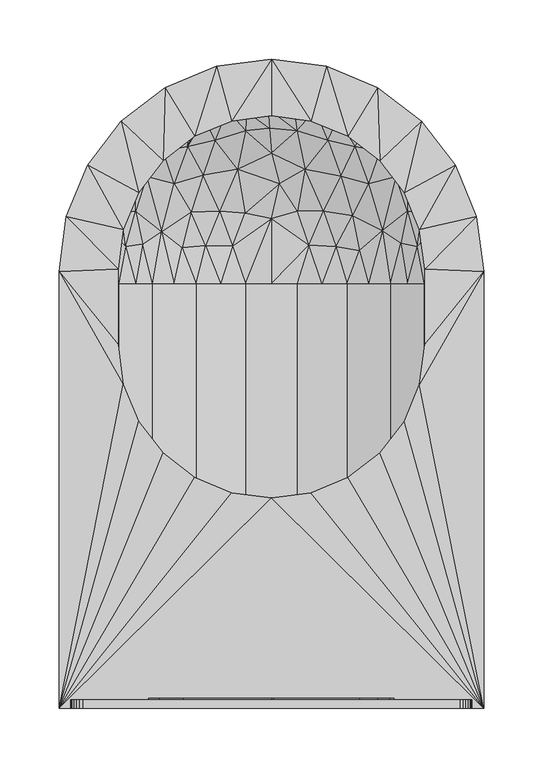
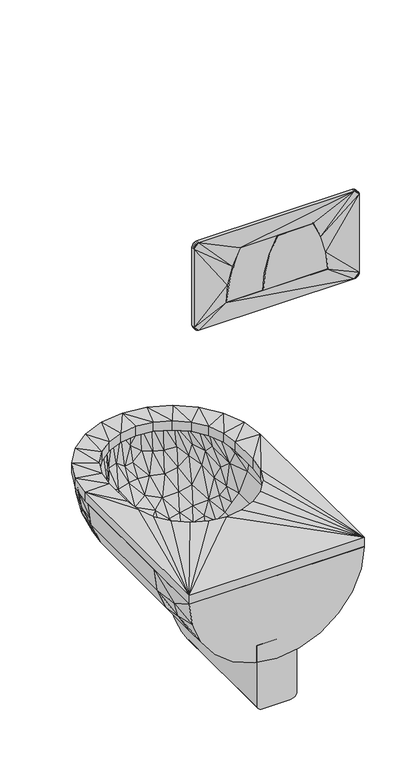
"""IFC4 building model written with IfcOpenShell, lengths in millimetres: proxy geometry."""

from ifc_helpers import new_model, si_unit, frame, origin, place, context, project, spatial, polyline, outline, extrude, faceted_brep, source, transform, mapped, element, save


def generic_models_791661f3(model_context):
    return source(origin(), model_context, "Body", "SolidModel", [
        faceted_brep([(344.1834627, 1.5952722, 871.936014), (346.5952722, 1.5952722, 872.9350182), (351.5952722, 1.5952722, 881.5952722), (341.5952722, 1.5952722, 871.5952722), (348.66634, 1.5952722, 874.5242044), (351.2545305, 1.5952722, 879.0070818), (350.2555263, 1.5952722, 876.5952722), (286.5952722, 1.5952722, 911.5952722), (283.0671069, 1.5952722, 949.8261607), (351.5952722, 1.5952722, 1051.5952722), (272.9651501, 1.5952722, 986.866669), (341.5952722, 1.5952722, 1061.5952722), (344.1834627, 1.5952722, 1061.2545305), (346.5952722, 1.5952722, 1060.2555263), (348.66634, 1.5952722, 1058.66634), (351.2545305, 1.5952722, 1054.1834627), (350.2555263, 1.5952722, 1056.5952722), (256.5952722, 1.5952722, 1021.5952722), (106.5952722, 1.5952722, 1021.5952722), (21.5952722, 1.5952722, 1061.5952722), (90.2253943, 1.5952722, 986.866669), (11.5952722, 1.5952722, 1051.5952722), (19.0070818, 1.5952722, 1061.2545305), (16.5952722, 1.5952722, 1060.2555263), (14.5242044, 1.5952722, 1058.66634), (11.936014, 1.5952722, 1054.1834627), (12.9350182, 1.5952722, 1056.5952722), (80.1234375, 1.5952722, 949.8261607), (11.5952722, 1.5952722, 881.5952722), (76.5952722, 1.5952722, 911.5952722), (21.5952722, 1.5952722, 871.5952722), (19.0070818, 1.5952722, 871.936014), (16.5952722, 1.5952722, 872.9350182), (14.5242044, 1.5952722, 874.5242044), (11.936014, 1.5952722, 879.0070818), (12.9350182, 1.5952722, 876.5952722), (344.1834627, 8.9204193, 1061.2545305), (346.5952722, 8.9204193, 1060.2555263), (351.5952722, 8.9204193, 1051.5952722), (341.5952722, 8.9204193, 1061.5952722), (348.66634, 8.9204193, 1058.66634), (351.2545305, 8.9204193, 1054.1834627), (350.2555263, 8.9204193, 1056.5952722), (272.9651501, 8.9204193, 986.866669), (283.0671069, 8.9204193, 949.8261607), (351.5952722, 8.9204193, 881.5952722), (286.5952722, 8.9204193, 911.5952722), (341.5952722, 8.9204193, 871.5952722), (344.1834627, 8.9204193, 871.936014), (346.5952722, 8.9204193, 872.9350182), (348.66634, 8.9204193, 874.5242044), (351.2545305, 8.9204193, 879.0070818), (350.2555263, 8.9204193, 876.5952722), (76.5952722, 8.9204193, 911.5952722), (21.5952722, 8.9204193, 871.5952722), (11.5952722, 8.9204193, 881.5952722), (19.0070818, 8.9204193, 871.936014), (16.5952722, 8.9204193, 872.9350182), (14.5242044, 8.9204193, 874.5242044), (11.936014, 8.9204193, 879.0070818), (12.9350182, 8.9204193, 876.5952722), (80.1234375, 8.9204193, 949.8261607), (11.5952722, 8.9204193, 1051.5952722), (90.2253943, 8.9204193, 986.866669), (21.5952722, 8.9204193, 1061.5952722), (19.0070818, 8.9204193, 1061.2545305), (16.5952722, 8.9204193, 1060.2555263), (14.5242044, 8.9204193, 1058.66634), (11.936014, 8.9204193, 1054.1834627), (12.9350182, 8.9204193, 1056.5952722), (106.5952722, 8.9204193, 1021.5952722), (256.5952722, 8.9204193, 1021.5952722)], [[[0, 1, 2]], [[2, 3, 0]], [[2, 1, 4]], [[2, 4, 5]], [[4, 6, 5]], [[7, 3, 2]], [[7, 2, 8]], [[2, 9, 8]], [[9, 10, 8]], [[11, 10, 9]], [[11, 9, 12]], [[9, 13, 12]], [[14, 13, 9]], [[9, 15, 14]], [[16, 14, 15]], [[11, 17, 10]], [[17, 11, 18]], [[18, 11, 19]], [[19, 20, 18]], [[21, 20, 19]], [[22, 21, 19]], [[23, 21, 22]], [[21, 23, 24]], [[24, 25, 21]], [[25, 24, 26]], [[20, 21, 27]], [[27, 21, 28]], [[29, 27, 28]], [[28, 30, 29]], [[31, 30, 28]], [[28, 32, 31]], [[28, 33, 32]], [[33, 28, 34]], [[33, 34, 35]], [[30, 3, 29]], [[3, 7, 29]], [[36, 37, 38]], [[38, 39, 36]], [[38, 37, 40]], [[38, 40, 41]], [[40, 42, 41]], [[39, 38, 43]], [[38, 44, 43]], [[45, 44, 38]], [[46, 44, 45]], [[46, 45, 47]], [[47, 45, 48]], [[45, 49, 48]], [[50, 49, 45]], [[45, 51, 50]], [[52, 50, 51]], [[46, 47, 53]], [[53, 47, 54]], [[55, 53, 54]], [[56, 55, 54]], [[57, 55, 56]], [[55, 57, 58]], [[58, 59, 55]], [[59, 58, 60]], [[61, 53, 55]], [[61, 55, 62]], [[63, 61, 62]], [[63, 62, 64]], [[65, 64, 62]], [[62, 66, 65]], [[62, 67, 66]], [[67, 62, 68]], [[67, 68, 69]], [[64, 70, 63]], [[64, 39, 70]], [[39, 71, 70]], [[39, 43, 71]], [[22, 19, 64, 65]], [[23, 22, 65, 66]], [[24, 23, 66, 67]], [[26, 24, 67, 69]], [[25, 26, 69, 68]], [[21, 25, 68, 62]], [[28, 21, 62, 55]], [[34, 28, 55, 59]], [[35, 34, 59, 60]], [[33, 35, 60, 58]], [[32, 33, 58, 57]], [[31, 32, 57, 56]], [[30, 31, 56, 54]], [[3, 30, 54, 47]], [[0, 3, 47, 48]], [[1, 0, 48, 49]], [[4, 1, 49, 50]], [[6, 4, 50, 52]], [[5, 6, 52, 51]], [[2, 5, 51, 45]], [[9, 2, 45, 38]], [[15, 9, 38, 41]], [[16, 15, 41, 42]], [[14, 16, 42, 40]], [[13, 14, 40, 37]], [[12, 13, 37, 36]], [[11, 12, 36, 39]], [[19, 11, 39, 64]], [[17, 18, 70, 71]], [[71, 43, 10, 17]], [[43, 44, 8, 10]], [[44, 46, 7, 8]], [[29, 7, 46, 53]], [[53, 61, 27, 29]], [[61, 63, 20, 27]], [[63, 70, 18, 20]]]),
        extrude(outline(polyline([(950.1187686, 157.7293359), (912.5952722, 154.1386155), (912.5952722, 285.5880496), (950.1187686, 281.9973291), (986.4757102, 272.043493), (1020.5952722, 256.0197126), (1020.5952722, 183.7069525), (986.4757102, 167.683172), (950.1187686, 157.7293359)])), frame((0.0, 1.5952722, 0.0), z_axis=(0.0, 1.0, 0.0), x_axis=(0.0, 0.0, 1.0)), (0.0, 0.0, 1.0), 8.5425872),
        faceted_brep([(337.486512, 1.5952722, 191.620154), (355.4636166, 1.5952722, 235.0207239), (361.5952722, 1.5952722, 281.5952722), (1.6947994, 1.5952722, 281.5952722), (7.8264551, 1.5952722, 235.0207239), (25.8035597, 1.5952722, 191.620154), (54.4010034, 1.5952722, 154.3512398), (91.6699176, 1.5952722, 125.7537961), (135.0704875, 1.5952722, 107.7766915), (181.6450358, 1.5952722, 101.6450358), (228.2195842, 1.5952722, 107.7766915), (271.620154, 1.5952722, 125.7537961), (308.8890683, 1.5952722, 154.3512398), (7.7286235, 126.4956575, 235.0078441), (1.5952722, 126.4956575, 281.5952722), (361.5952722, 126.4956575, 281.5952722), (355.461921, 126.4956575, 235.0078441), (337.4798449, 126.4956575, 191.5952722), (308.8744928, 126.4956575, 154.3160516), (271.5952722, 126.4956575, 125.7106996), (228.1827004, 126.4956575, 107.7286235), (181.5952722, 126.4956575, 101.5952722), (135.0078441, 126.4956575, 107.7286235), (91.5952722, 126.4956575, 125.7106996), (54.3160516, 126.4956575, 154.3160516), (25.7106996, 126.4956575, 191.5952722), (324.4040112, 64.0454749, 172.0333569), (291.1820605, 64.0454691, 138.8114083), (250.4936475, 64.0454671, 115.3199431), (205.1116213, 64.0454637, 103.1598662), (347.8954825, 64.0454825, 212.7217772), (358.153093, 66.7174561, 246.5642578), (112.7466573, 64.0454655, 115.3199445), (72.0582434, 64.0454653, 138.8114114), (38.8362926, 64.0454652, 172.0333625), (15.3448258, 64.0454652, 212.7217766), (5.108141, 61.2573201, 246.4703466), (158.128686, 64.0454657, 103.1598663)], [[[0, 1, 2, 3, 4, 5, 6, 7, 8, 9, 10, 11, 12]], [[13, 14, 15, 16, 17, 18, 19, 20, 21, 22, 23, 24, 25]], [[18, 26, 27]], [[20, 28, 29]], [[30, 17, 16]], [[30, 16, 31]], [[19, 18, 27]], [[10, 29, 28]], [[23, 32, 33]], [[26, 18, 17]], [[24, 33, 34]], [[19, 28, 20]], [[30, 1, 0]], [[19, 27, 28]], [[4, 35, 5]], [[13, 36, 14]], [[1, 31, 2]], [[29, 10, 9]], [[2, 31, 15]], [[26, 30, 0]], [[26, 17, 30]], [[26, 12, 27]], [[28, 27, 11]], [[31, 16, 15]], [[21, 29, 37]], [[6, 33, 7]], [[23, 22, 32]], [[30, 31, 1]], [[23, 33, 24]], [[13, 25, 35]], [[36, 3, 14]], [[35, 4, 36]], [[34, 25, 24]], [[8, 37, 9]], [[36, 4, 3]], [[21, 37, 22]], [[32, 37, 8]], [[12, 26, 0]], [[37, 29, 9]], [[7, 32, 8]], [[34, 5, 35]], [[20, 29, 21]], [[32, 7, 33]], [[10, 28, 11]], [[33, 6, 34]], [[22, 37, 32]], [[11, 27, 12]], [[5, 34, 6]], [[35, 36, 13]], [[25, 34, 35]], [[15, 14, 3, 2]]]),
        faceted_brep([(222.7683665, 247.4624666, 107.8933716), (222.7683665, 164.4157325, 111.2312469), (222.7683665, 82.1639464, 123.1713988), (222.7683665, 1.5952722, 143.585015), (222.7683665, 1.5952722, 10.3559754), (222.7683665, 111.2625202, 10.3559754), (222.7683665, 178.8790889, 10.3559754), (222.7683665, 246.4956575, 10.3559754), (222.7683665, 268.2119257, 13.2149763), (222.7683665, 288.4482662, 21.597143), (222.7683665, 305.8256056, 34.9312446), (222.7683665, 319.1597072, 52.308584), (222.7683665, 327.5418739, 72.5449245), (222.7683665, 330.4008748, 94.2611927), (222.7683665, 330.4008748, 113.1930881), (140.4321562, 1.5952722, 9.2515769), (140.4321562, 1.5952722, 143.585015), (140.4321562, 82.4363507, 123.1173191), (140.4321562, 164.968978, 111.180306), (140.4321562, 248.2958828, 107.9036598), (140.4321562, 331.5052733, 113.3223334), (140.4321562, 331.5052733, 94.2611927), (140.4321562, 328.6086409, 72.2590851), (140.4321562, 320.1161444, 51.7563848), (140.4321562, 306.6065333, 34.1503169), (140.4321562, 289.0004654, 20.6407058), (140.4321562, 268.4977651, 12.1482093), (140.4321562, 246.4956575, 9.2515769), (140.4321562, 178.8790603, 9.2515769), (140.4321562, 69.2118695, 9.2515769), (209.1275756, 1.5952722, 1.5952722), (212.5232983, 1.5952722, 1.9846916), (215.7427063, 1.5952722, 3.1327299), (218.6186397, 1.5952722, 4.9797781), (221.0017725, 1.5952722, 7.4299327), (142.268593, 1.5952722, 6.665707), (144.6076755, 1.5952722, 4.5237647), (147.3448287, 1.5952722, 2.9215112), (150.3576809, 1.5952722, 1.9305797), (153.5115345, 1.5952722, 1.5952722), (209.1275756, 339.161578, 114.2611927), (142.2647194, 334.0867555, 113.6305138), (218.6268376, 335.7703687, 113.8360939), (215.7509312, 337.6200757, 114.0661354), (212.526659, 338.7713772, 114.2115301), (153.5115345, 339.161578, 114.2611927), (144.6002405, 336.227598, 113.8925505), (147.336521, 337.8315892, 114.0927196), (150.352333, 338.8251193, 114.2183585), (221.0061911, 333.3211901, 113.5382317), (209.1275756, 339.161578, 94.2611927), (153.5115345, 339.161578, 94.2611927), (153.5115345, 336.0040633, 70.2774876), (209.1275756, 336.0040633, 70.2774876), (153.5115345, 326.7466987, 47.9282325), (209.1275756, 326.7466987, 47.9282325), (209.1275756, 312.0203583, 28.7364919), (153.5115345, 312.0203583, 28.7364919), (209.1275756, 270.4793626, 4.7527869), (209.1275952, 246.4956575, 1.5952722), (153.5115345, 246.4956575, 1.5952722), (153.5115345, 270.4793626, 4.7527869), (153.5115345, 292.8286177, 14.0101515), (209.1275756, 292.8286177, 14.0101515), (209.1275756, 136.8284215, 1.5952722), (209.1275756, 69.2118469, 1.5952722), (153.5115345, 69.2118541, 1.5952722), (153.5115345, 178.8791008, 1.5952722), (221.0017725, 333.3269175, 94.2611927), (218.6186397, 335.7770721, 94.2611927), (215.7427063, 337.6241203, 94.2611927), (212.5232983, 338.7721586, 94.2611927), (150.3576809, 338.8262705, 94.2611927), (147.3448287, 337.835339, 94.2611927), (144.6076755, 336.2330855, 94.2611927), (142.268593, 334.0911432, 94.2611927), (217.0522353, 334.8057176, 74.9273251), (216.4831653, 328.4926699, 55.4026553), (213.9780449, 333.9984733, 66.3054483), (219.2640134, 333.9305878, 79.1995687), (221.5003822, 325.7281772, 60.4475781), (221.0364637, 331.436811, 76.4613511), (214.0097044, 327.3948381, 50.7687308), (220.981175, 315.1603969, 41.0686607), (219.549328, 329.525213, 63.7613688), (217.2334546, 317.6136346, 38.6374773), (213.452725, 302.4445286, 21.1925345), (212.6757881, 319.7152442, 38.1617257), (212.5232983, 246.4956575, 1.9846916), (214.0082731, 270.0806283, 5.4912017), (215.7427063, 246.4956575, 3.1327299), (220.0688757, 300.44822, 24.8330794), (214.1092478, 287.1642987, 11.9449234), (216.8542571, 285.6644905, 12.6513091), (217.4132702, 302.8300298, 23.8549911), (221.0017725, 246.4956575, 7.4299327), (221.430057, 263.7326811, 9.7533764), (219.6273938, 270.0992337, 9.0932131), (221.3476289, 280.4728807, 14.8607838), (218.6186397, 246.4956575, 4.9797781), (217.0636213, 264.640768, 5.7064755), (219.5146699, 286.5477235, 15.3569249), (149.0111658, 328.6854019, 52.9789111), (149.6799426, 319.662246, 38.2108122), (143.644542, 331.954383, 69.5353575), (146.0898149, 335.4655595, 76.6242654), (146.3327126, 326.6913757, 51.6006849), (146.3327126, 289.1561654, 14.0654745), (143.9812046, 291.6641185, 17.2856558), (144.3083924, 305.0882986, 26.5921945), (148.979697, 335.0801309, 69.5560432), (146.5207901, 309.3469223, 28.5397282), (143.1188614, 316.4100919, 40.0295119), (144.0941915, 324.8782472, 51.3889277), (142.2010168, 325.2620116, 56.112284), (150.3576809, 246.4956575, 1.9305797), (148.979697, 271.200807, 5.6767193), (150.0448729, 302.6112528, 21.0292558), (150.5727158, 286.7171879, 11.1022555), (142.3890884, 300.1925975, 24.8836788), (147.3448287, 246.4956575, 2.9215112), (143.644542, 271.2214927, 8.8024673), (142.1070215, 283.4905966, 15.0665411), (144.6076755, 246.4956575, 4.5237647), (146.161585, 271.8627576, 7.1372474), (142.268593, 246.4956575, 6.665707), (219.8802222, 169.5035861, 6.1367545), (217.2334546, 190.5262191, 3.9740708), (214.1658088, 78.5873434, 2.4667123), (214.1658089, 169.5035873, 2.4667123), (217.2334546, 124.0454647, 3.9740708), (219.8802221, 78.5873403, 6.1367545), (217.2334546, 57.5647104, 3.9740707), (143.3813632, 173.5951326, 5.5327396), (145.9337852, 190.4343075, 3.6500911), (143.3813631, 74.4957975, 5.5327396), (145.9337852, 124.0454646, 3.6500911), (145.9337852, 57.6566219, 3.6500911), (148.8249907, 173.5951311, 2.3461913), (148.8249906, 74.4957976, 2.3461913)], [[[0, 1, 2, 3, 4, 5, 6, 7, 8, 9, 10, 11, 12, 13, 14]], [[15, 16, 17, 18, 19, 20, 21, 22, 23, 24, 25, 26, 27, 28, 29]], [[30, 31, 32, 33, 34, 4, 3, 16, 15, 35, 36, 37, 38, 39]], [[16, 3, 2]], [[18, 1, 0]], [[2, 1, 17]], [[40, 19, 0]], [[16, 2, 17]], [[18, 17, 1]], [[0, 19, 18]], [[19, 41, 20]], [[42, 0, 14]], [[42, 43, 0]], [[40, 0, 44]], [[0, 43, 44]], [[40, 45, 19]], [[41, 19, 46]], [[47, 46, 19]], [[19, 48, 47]], [[45, 48, 19]], [[14, 49, 42]], [[45, 40, 50, 51]], [[52, 51, 50, 53]], [[54, 52, 53, 55]], [[54, 55, 56, 57]], [[58, 59, 60, 61]], [[62, 57, 56, 63]], [[63, 58, 61, 62]], [[60, 59, 64, 65, 30, 39, 66, 67]], [[49, 14, 68]], [[42, 49, 69]], [[13, 68, 14]], [[69, 49, 68]], [[69, 70, 42]], [[44, 43, 71]], [[40, 44, 50]], [[43, 70, 71]], [[44, 71, 50]], [[42, 70, 43]], [[48, 45, 51]], [[47, 48, 72]], [[51, 72, 48]], [[73, 47, 72]], [[73, 46, 47]], [[41, 46, 74]], [[20, 41, 75]], [[41, 74, 75]], [[20, 75, 21]], [[73, 74, 46]], [[76, 77, 78]], [[79, 76, 69]], [[80, 81, 12]], [[77, 82, 78]], [[11, 10, 83]], [[12, 81, 13]], [[80, 83, 84]], [[79, 68, 81]], [[53, 50, 71]], [[85, 86, 87]], [[82, 55, 78]], [[71, 70, 78]], [[88, 89, 90]], [[71, 78, 53]], [[78, 70, 76]], [[11, 80, 12]], [[55, 53, 78]], [[91, 10, 9]], [[91, 83, 10]], [[77, 84, 85]], [[92, 93, 89]], [[94, 86, 85]], [[7, 95, 96]], [[70, 69, 76]], [[96, 97, 98]], [[99, 97, 95]], [[87, 56, 55]], [[99, 90, 100]], [[63, 86, 92]], [[90, 89, 100]], [[63, 56, 86]], [[83, 85, 84]], [[88, 59, 58]], [[88, 58, 89]], [[94, 85, 91]], [[93, 97, 100]], [[92, 58, 63]], [[86, 56, 87]], [[98, 101, 91]], [[98, 9, 8]], [[85, 83, 91]], [[8, 96, 98]], [[93, 100, 89]], [[97, 99, 100]], [[84, 77, 76]], [[82, 85, 87]], [[101, 98, 97]], [[91, 9, 98]], [[83, 80, 11]], [[81, 80, 84]], [[79, 81, 84]], [[81, 68, 13]], [[76, 79, 84]], [[68, 79, 69]], [[7, 96, 8]], [[95, 97, 96]], [[97, 93, 101]], [[94, 101, 93]], [[85, 82, 77]], [[55, 82, 87]], [[101, 94, 91]], [[86, 94, 93]], [[92, 89, 58]], [[86, 93, 92]], [[102, 52, 54]], [[72, 51, 52]], [[102, 54, 103]], [[104, 105, 106]], [[107, 108, 109]], [[72, 110, 73]], [[111, 112, 113]], [[113, 112, 114]], [[75, 22, 21]], [[105, 104, 74]], [[61, 115, 116]], [[107, 117, 118]], [[24, 112, 119]], [[74, 104, 75]], [[110, 105, 73]], [[72, 52, 110]], [[23, 114, 112]], [[114, 22, 104]], [[117, 103, 57]], [[22, 75, 104]], [[102, 103, 106]], [[118, 117, 62]], [[61, 60, 115]], [[109, 111, 107]], [[103, 117, 111]], [[120, 116, 115]], [[108, 121, 122]], [[120, 123, 124]], [[123, 125, 121]], [[122, 25, 119]], [[27, 26, 125]], [[103, 54, 57]], [[124, 107, 116]], [[118, 61, 116]], [[24, 119, 25]], [[111, 106, 103]], [[124, 123, 121]], [[122, 26, 25]], [[117, 57, 62]], [[23, 112, 24]], [[111, 117, 107]], [[125, 26, 121]], [[108, 122, 119]], [[26, 122, 121]], [[108, 119, 109]], [[121, 108, 107]], [[119, 112, 109]], [[112, 111, 109]], [[73, 105, 74]], [[106, 105, 110]], [[124, 116, 120]], [[121, 107, 124]], [[22, 114, 23]], [[113, 104, 106]], [[104, 113, 114]], [[111, 113, 106]], [[106, 110, 102]], [[102, 110, 52]], [[61, 118, 62]], [[107, 118, 116]], [[99, 126, 127]], [[65, 31, 30]], [[128, 129, 130]], [[130, 131, 132]], [[99, 95, 126]], [[129, 88, 90]], [[34, 5, 4]], [[6, 95, 7]], [[131, 34, 33]], [[127, 90, 99]], [[95, 6, 126]], [[127, 130, 129]], [[126, 131, 130]], [[5, 131, 126]], [[88, 64, 59]], [[129, 64, 88]], [[31, 128, 32]], [[64, 129, 128]], [[32, 128, 132]], [[131, 5, 34]], [[132, 33, 32]], [[65, 128, 31]], [[90, 127, 129]], [[130, 127, 126]], [[33, 132, 131]], [[130, 132, 128]], [[6, 5, 126]], [[65, 64, 128]], [[133, 123, 134]], [[133, 135, 29, 28]], [[135, 133, 136, 137]], [[138, 134, 120]], [[28, 27, 125]], [[15, 29, 35]], [[66, 39, 38]], [[60, 67, 115]], [[36, 135, 137]], [[115, 67, 138]], [[138, 120, 115]], [[37, 139, 38]], [[138, 136, 134]], [[139, 138, 67, 66]], [[135, 35, 29]], [[137, 139, 37]], [[135, 36, 35]], [[138, 139, 137, 136]], [[133, 125, 123]], [[120, 134, 123]], [[139, 66, 38]], [[133, 28, 125]], [[133, 134, 136]], [[36, 137, 37]]]),
        faceted_brep([(90.8537532, 522.487414, 281.5952722), (72.3101833, 507.2286495, 281.5952722), (53.7666135, 491.9698851, 281.5952722), (39.6148713, 472.5682855, 281.5952722), (25.463129, 453.1666859, 281.5952722), (16.597707, 430.8485729, 281.5952722), (7.7322851, 408.5304599, 281.5952722), (1.6947994, 360.8825401, 281.5952722), (1.6947994, 126.4956575, 281.5952722), (27.6920914, 126.4956575, 281.5952722), (27.6920914, 361.6817402, 281.5952722), (33.0095829, 402.4465343, 281.5952722), (48.2370905, 440.6324894, 281.5952722), (60.3334568, 457.2514232, 281.5952722), (72.4298231, 473.870357, 281.5952722), (88.2582826, 486.9841249, 281.5952722), (104.086742, 500.0978929, 281.5952722), (113.3759798, 504.4953719, 281.5952722), (122.6652175, 508.8928509, 281.5952722), (141.2436931, 517.6878089, 281.5952722), (161.4194826, 521.6182736, 281.5952722), (181.5952722, 525.5487383, 281.5952722), (201.7710618, 521.6182736, 281.5952722), (221.9468514, 517.6878089, 281.5952722), (240.5253269, 508.8928509, 281.5952722), (259.1038024, 500.0978929, 281.5952722), (274.9322619, 486.9841249, 281.5952722), (290.7607214, 473.870357, 281.5952722), (302.8570877, 457.2514232, 281.5952722), (314.953454, 440.6324894, 281.5952722), (330.1809615, 402.4465343, 281.5952722), (335.498453, 361.6817402, 281.5952722), (335.498453, 126.4956575, 281.5952722), (361.495745, 126.4956575, 281.5952722), (361.495745, 360.8825401, 281.5952722), (355.4582594, 408.5304599, 281.5952722), (337.7274154, 453.1666859, 281.5952722), (323.5756732, 472.5682855, 281.5952722), (309.423931, 491.9698851, 281.5952722), (290.8803611, 507.2286495, 281.5952722), (272.3367913, 522.487414, 281.5952722), (250.5734819, 532.6388788, 281.5952722), (228.8101725, 542.7903437, 281.5952722), (205.2027223, 547.1928627, 281.5952722), (181.5952722, 551.5953818, 281.5952722), (157.9878221, 547.1928627, 281.5952722), (134.380372, 542.7903437, 281.5952722), (112.6170626, 532.6388788, 281.5952722), (7.8247594, 126.4956575, 235.0336037), (5.8541445, 360.8825401, 250.0019101), (7.8247594, 360.8825401, 235.0336037), (25.7968926, 126.4956575, 191.6450358), (16.810826, 360.8825401, 213.3393197), (25.7968926, 360.8825401, 191.6450358), (91.6450358, 126.4956575, 125.7968926), (54.386428, 126.4956575, 154.386428), (54.386428, 360.8825401, 154.386428), (91.6450358, 360.8825401, 125.7968926), (40.0916603, 360.8825401, 173.0157319), (113.3393197, 360.8825401, 116.810826), (135.0336037, 360.8825401, 107.8247594), (135.0336037, 126.4956575, 107.8247594), (158.3144379, 360.8825401, 104.7597794), (181.5952722, 360.8825401, 101.6947994), (181.5952722, 126.4956575, 101.6947994), (271.5455086, 126.4956575, 125.7968926), (228.1569408, 126.4956575, 107.8247594), (228.1569408, 360.8825401, 107.8247594), (249.8512247, 360.8825401, 116.810826), (271.5455086, 360.8825401, 125.7968926), (290.1748126, 360.8825401, 140.0916603), (308.8041165, 360.8825401, 154.386428), (308.8041165, 126.4956575, 154.386428), (355.3657851, 126.4956575, 235.0336037), (337.3936518, 126.4956575, 191.6450358), (337.3936518, 360.8825401, 191.6450358), (346.3797184, 360.8825401, 213.3393197), (355.3657851, 360.8825401, 235.0336037), (323.0988842, 360.8825401, 173.0157319), (357.3363997, 360.8825401, 250.0019075), (204.8761065, 360.8825401, 104.7597794), (17.6403312, 411.9607083, 226.5598397), (295.8384995, 479.0257179, 202.43618), (277.6373878, 509.3226346, 229.8042043), (189.1596692, 471.0031882, 136.8247348), (221.6440413, 467.883159, 140.0281503), (205.5017546, 433.8153989, 117.9011417), (7.926792, 398.0470745, 251.5364018), (71.057005, 403.2575409, 145.7430175), (95.4501734, 399.4508186, 128.1569706), (334.5192403, 430.7206323, 215.2958065), (321.7418151, 436.6766373, 195.9937213), (321.6043443, 466.9670795, 234.4348417), (134.2586007, 424.3079331, 119.2930593), (130.0453439, 463.3432982, 140.6258147), (161.32668, 453.7675514, 127.120083), (30.4951453, 396.3344494, 190.2168935), (45.5615007, 394.6958794, 168.5340624), (105.0710156, 462.1024119, 151.5600854), (111.8043113, 427.4414734, 128.8538811), (89.5307291, 435.8474351, 145.1772489), (23.278358, 443.4082255, 251.479265), (253.0312632, 514.5712418, 208.3240334), (226.346299, 530.6414156, 219.5708712), (274.4184389, 481.5717641, 180.9032765), (270.5458204, 445.4498521, 148.403706), (40.2813569, 427.4414729, 190.8699275), (35.1387229, 461.7608599, 244.4485902), (48.8198635, 480.9601106, 246.0717886), (57.1292883, 481.0052137, 223.3765098), (56.4091972, 426.3039044, 169.0343237), (79.8022106, 498.1708553, 214.8829923), (189.0029479, 401.141574, 106.1413468), (157.6899269, 421.1550943, 113.1397258), (180.6928464, 433.9451482, 116.2207696), (123.032601, 394.6958796, 114.6868013), (311.1665819, 467.8551667, 211.8672451), (217.1935691, 398.0597463, 108.9796533), (250.1357628, 471.7148557, 154.4264023), (234.525926, 500.1600139, 174.324328), (251.431785, 414.0522854, 124.0257522), (207.4128833, 507.2872333, 173.0366921), (313.7981879, 403.2785376, 166.7246527), (355.263753, 398.0470721, 251.5364021), (331.4269417, 399.5819494, 189.3714561), (345.5502147, 411.9607008, 226.5598373), (305.8421304, 442.7338928, 178.4564155), (109.9564074, 522.7838062, 226.6724358), (90.0706754, 481.7705045, 179.9396374), (337.6795755, 445.3787865, 245.5242707), (130.8264494, 504.1909116, 178.1986789), (158.0386365, 483.149434, 148.0072738), (291.7882664, 422.5640236, 152.5798225), (189.8166016, 520.7893115, 188.5712224), (187.1469984, 537.1069668, 219.2202207), (147.3318722, 539.3945688, 236.1698344), (165.5053401, 543.3840685, 239.2163309), (164.6742601, 527.6898106, 201.380936), (229.8707945, 428.5960381, 121.2057083), (139.7942068, 524.9319434, 205.5730096), (180.7036997, 501.0109662, 162.8919613), (153.6294322, 508.8353533, 175.50381), (273.1023314, 411.8840624, 134.8167646), (28.3840391, 428.551213, 213.8653195), (73.4450714, 454.7172313, 170.1885435), (110.3169924, 493.8726933, 177.6836709), (35.6724083, 403.1872232, 254.6427495), (43.716823, 408.2771578, 230.753271), (144.074351, 508.4291712, 231.2172602), (125.1283888, 501.4893968, 231.8033925), (133.7876625, 483.1472048, 194.0771693), (110.688113, 477.6101036, 203.4227687), (188.6062058, 446.1376433, 151.6042458), (203.6583191, 423.0091998, 141.5571029), (210.149613, 458.6424727, 163.1522563), (117.6615804, 361.6817402, 141.6000148), (138.6770732, 361.6817402, 135.4293094), (126.0141544, 393.9248104, 141.6661421), (56.3052149, 447.4041646, 249.2092307), (203.3840361, 491.2515199, 194.2004037), (199.7321033, 514.5364641, 235.9594452), (178.5307097, 509.5733617, 221.1859789), (88.669147, 405.5183254, 166.7207055), (113.6224499, 421.9779544, 156.7153649), (99.2236387, 446.2425878, 180.8716879), (331.6276736, 361.6817402, 254.6734098), (31.5628706, 361.6817402, 254.6734121), (66.5213441, 423.1804082, 198.9169348), (75.8813555, 452.3269121, 212.5651971), (66.2595149, 455.9708942, 236.7162239), (57.9975944, 393.0160845, 195.2923981), (52.1236777, 361.6817402, 198.3889308), (66.4669, 361.6817402, 181.8359698), (252.5024223, 477.6100993, 203.4227547), (238.0621551, 501.4893953, 231.8033883), (229.4028746, 483.1472056, 194.0771663), (159.4131562, 421.4321803, 140.9367462), (148.8622319, 393.3598511, 134.5155745), (181.5952706, 416.7210279, 137.4230035), (89.6735556, 474.0425836, 223.010694), (180.1209265, 520.4532894, 250.6229784), (159.8065003, 491.2515148, 194.200399), (240.6647631, 452.4528984, 170.1045057), (263.9669003, 446.2425884, 180.8716839), (181.5952693, 472.2330614, 170.9127887), (153.0409219, 458.6424563, 163.1522462), (296.9310252, 455.9708932, 236.7162109), (327.5181361, 403.1872253, 254.642752), (219.1161925, 508.4291723, 231.2172624), (213.2996724, 394.175087, 134.4599783), (236.2257238, 393.1462458, 141.1236363), (225.6195779, 423.1804074, 146.9120253), (291.2299571, 395.7569162, 178.9609311), (296.6691971, 423.1804063, 198.916929), (275.809673, 406.4187114, 168.10702), (319.4737226, 408.27715, 230.7532676), (250.2717633, 419.2954511, 155.9123055), (256.1388535, 389.4912832, 149.8104816), (123.529246, 453.4988776, 170.3714282), (329.2642928, 361.6817402, 238.2357356), (263.9546931, 361.6817402, 153.4415118), (245.5289641, 361.6817402, 141.6000148), (224.5134713, 361.6817402, 135.4293094), (306.8853276, 447.4041646, 249.2092233), (203.4979785, 361.6817402, 129.2586039), (181.5952722, 361.6817402, 129.2586039), (273.5169787, 474.0425904, 223.0106899), (72.5009947, 395.142726, 178.1953588), (305.1929487, 393.0160826, 195.2923954), (311.0668668, 361.6817402, 198.3889308), (308.9566787, 421.4252283, 217.9028854), (160.3949252, 507.2706061, 220.0620292), (179.9877593, 493.3013722, 194.2372058), (137.5709628, 423.1804088, 146.9120271), (258.8087535, 492.2272398, 237.7362874), (81.1038347, 476.0334271, 244.5659936), (105.7278258, 392.2865827, 151.1657281), (99.2358513, 361.6817402, 153.4415118), (80.8101223, 361.6817402, 165.2830089), (159.692566, 361.6817402, 129.2586039), (54.2338651, 421.4252322, 217.9028903), (282.0867024, 476.033432, 244.5659874), (287.3091805, 452.3269129, 212.565185), (296.7236445, 361.6817402, 181.8359698), (282.3804222, 361.6817402, 165.2830089), (33.9262517, 361.6817402, 238.2357356), (33.9262517, 126.4956575, 238.2357356), (52.1236777, 126.4956575, 198.3889308), (80.8101223, 126.4956575, 165.2830089), (117.6615804, 126.4956575, 141.6000148), (159.692566, 126.4956575, 129.2586039), (203.4979785, 126.4956575, 129.2586039), (245.5289641, 126.4956575, 141.6000148), (282.3804222, 126.4956575, 165.2830089), (311.0668668, 126.4956575, 198.3889308), (329.2642928, 126.4956575, 238.2357356)], [[[0, 1, 2, 3, 4, 5, 6, 7, 8, 9, 10, 11, 12, 13, 14, 15, 16, 17, 18, 19, 20, 21, 22, 23, 24, 25, 26, 27, 28, 29, 30, 31, 32, 33, 34, 35, 36, 37, 38, 39, 40, 41, 42, 43, 44, 45, 46, 47]], [[48, 8, 7, 49, 50]], [[51, 48, 50, 52, 53]], [[54, 55, 56, 57]], [[53, 58, 56, 55, 51]], [[54, 57, 59, 60, 61]], [[61, 60, 62, 63, 64]], [[65, 66, 67, 68, 69]], [[65, 69, 70, 71, 72]], [[73, 74, 75, 76, 77]], [[75, 74, 72, 71, 78]], [[33, 73, 77, 79, 34]], [[64, 63, 80, 67, 66]], [[81, 53, 52]], [[40, 82, 83]], [[84, 85, 86]], [[50, 87, 52]], [[57, 88, 89]], [[90, 91, 92]], [[93, 94, 95]], [[96, 97, 58]], [[83, 41, 40]], [[98, 99, 100]], [[5, 87, 6]], [[101, 5, 4]], [[42, 102, 103]], [[104, 82, 105]], [[96, 106, 97]], [[107, 2, 108]], [[3, 2, 107]], [[109, 110, 106]], [[109, 0, 111]], [[112, 113, 114]], [[89, 99, 115]], [[39, 116, 82]], [[117, 67, 80]], [[115, 59, 89]], [[102, 118, 119]], [[120, 67, 117]], [[103, 119, 121]], [[122, 78, 71]], [[36, 35, 123]], [[112, 117, 80]], [[98, 94, 99]], [[70, 122, 71]], [[102, 42, 41]], [[124, 125, 75]], [[124, 75, 78]], [[115, 99, 93]], [[90, 124, 91]], [[99, 89, 100]], [[116, 91, 126]], [[127, 128, 111]], [[36, 125, 129]], [[130, 131, 94]], [[132, 105, 82]], [[133, 134, 103]], [[63, 112, 80]], [[62, 112, 63]], [[82, 104, 83]], [[135, 136, 137]], [[86, 85, 138]], [[44, 43, 134]], [[127, 46, 139]], [[131, 140, 84]], [[136, 45, 44]], [[139, 46, 135]], [[141, 137, 140]], [[132, 142, 105]], [[86, 138, 117]], [[96, 58, 53]], [[143, 96, 81]], [[37, 36, 129]], [[122, 124, 78]], [[103, 43, 42]], [[43, 103, 134]], [[83, 102, 41]], [[118, 102, 104]], [[83, 104, 102]], [[105, 118, 104]], [[105, 120, 118]], [[120, 105, 142]], [[144, 109, 111]], [[108, 2, 1]], [[128, 100, 144]], [[47, 127, 111]], [[46, 127, 47]], [[111, 0, 47]], [[130, 145, 127]], [[68, 120, 142]], [[70, 69, 142]], [[49, 7, 6]], [[35, 34, 79]], [[106, 110, 97]], [[124, 122, 91]], [[76, 75, 125]], [[125, 124, 90]], [[91, 122, 126]], [[132, 70, 142]], [[37, 92, 38]], [[129, 90, 92]], [[82, 40, 39]], [[92, 91, 116]], [[39, 38, 92]], [[90, 129, 125]], [[77, 123, 79]], [[37, 129, 92]], [[92, 116, 39]], [[132, 82, 126]], [[116, 126, 82]], [[132, 126, 122]], [[117, 138, 120]], [[69, 68, 142]], [[112, 86, 117]], [[86, 112, 114]], [[113, 62, 115]], [[138, 118, 120]], [[118, 138, 85]], [[118, 85, 119]], [[84, 140, 121]], [[85, 84, 121]], [[113, 95, 114]], [[114, 84, 86]], [[131, 84, 95]], [[114, 95, 84]], [[94, 131, 95]], [[141, 131, 130]], [[145, 94, 98]], [[140, 133, 121]], [[140, 137, 133]], [[121, 133, 103]], [[134, 133, 137]], [[134, 137, 136]], [[141, 139, 137]], [[134, 136, 44]], [[45, 136, 135]], [[139, 141, 130]], [[131, 141, 140]], [[139, 130, 127]], [[145, 130, 94]], [[45, 135, 46]], [[139, 135, 137]], [[145, 98, 128]], [[100, 128, 98]], [[145, 128, 127]], [[111, 128, 144]], [[100, 88, 144]], [[57, 56, 88]], [[100, 89, 88]], [[59, 57, 89]], [[115, 60, 59]], [[62, 60, 115]], [[102, 119, 103]], [[113, 93, 95]], [[93, 99, 94]], [[110, 88, 97]], [[97, 88, 56]], [[97, 56, 58]], [[110, 144, 88]], [[144, 110, 109]], [[106, 96, 143]], [[81, 96, 53]], [[1, 0, 109]], [[101, 107, 143]], [[101, 3, 107]], [[3, 101, 4]], [[106, 143, 107]], [[109, 106, 108]], [[107, 108, 106]], [[109, 108, 1]], [[49, 6, 87]], [[143, 81, 101]], [[132, 122, 70]], [[113, 112, 62]], [[115, 93, 113]], [[121, 119, 85]], [[68, 67, 120]], [[101, 87, 5]], [[49, 87, 50]], [[81, 87, 101]], [[81, 52, 87]], [[79, 123, 35]], [[77, 76, 123]], [[123, 125, 36]], [[125, 123, 76]], [[146, 147, 12]], [[148, 149, 150]], [[17, 151, 18]], [[152, 153, 154]], [[155, 156, 157]], [[14, 13, 158]], [[159, 160, 161]], [[162, 163, 164]], [[165, 31, 30]], [[11, 166, 146]], [[167, 168, 169]], [[170, 147, 171]], [[170, 171, 172]], [[168, 167, 162]], [[173, 174, 175]], [[176, 177, 178]], [[157, 156, 177]], [[179, 164, 151]], [[21, 20, 180]], [[150, 181, 148]], [[182, 183, 173]], [[154, 159, 184]], [[181, 150, 185]], [[186, 27, 26]], [[30, 29, 187]], [[175, 174, 188]], [[189, 190, 191]], [[192, 193, 194]], [[148, 20, 19]], [[29, 195, 187]], [[191, 196, 182]], [[197, 196, 190]], [[19, 149, 148]], [[151, 164, 198]], [[23, 22, 188]], [[195, 199, 187]], [[199, 165, 187]], [[163, 198, 164]], [[200, 197, 201]], [[190, 189, 202]], [[186, 203, 27]], [[204, 189, 205]], [[174, 23, 188]], [[173, 183, 206]], [[158, 169, 14]], [[207, 170, 172]], [[195, 208, 209]], [[186, 210, 203]], [[211, 180, 20]], [[184, 212, 181]], [[148, 181, 211]], [[184, 181, 185]], [[152, 184, 185]], [[213, 185, 198]], [[175, 188, 159]], [[188, 22, 160]], [[175, 159, 154]], [[212, 184, 159]], [[175, 154, 182]], [[189, 191, 153]], [[151, 198, 150]], [[150, 149, 151]], [[17, 179, 151]], [[149, 19, 18]], [[173, 214, 174]], [[162, 164, 168]], [[179, 16, 215]], [[150, 198, 185]], [[163, 213, 198]], [[179, 215, 168]], [[169, 15, 14]], [[13, 12, 147]], [[163, 157, 213]], [[163, 162, 216]], [[163, 216, 157]], [[207, 167, 170]], [[177, 213, 157]], [[155, 216, 217]], [[213, 177, 176]], [[180, 160, 22]], [[218, 217, 162]], [[157, 216, 155]], [[216, 162, 217]], [[156, 219, 177]], [[176, 185, 213]], [[185, 176, 152]], [[220, 170, 167]], [[167, 169, 220]], [[158, 13, 147]], [[214, 173, 206]], [[182, 196, 183]], [[24, 23, 174]], [[174, 214, 24]], [[206, 25, 214]], [[221, 26, 25]], [[222, 206, 183]], [[191, 182, 154]], [[182, 173, 175]], [[27, 203, 28]], [[186, 221, 222]], [[193, 186, 222]], [[194, 183, 196]], [[196, 191, 190]], [[183, 194, 222]], [[223, 209, 208]], [[194, 197, 200]], [[189, 204, 202]], [[178, 219, 205]], [[178, 189, 153]], [[202, 201, 190]], [[178, 153, 152]], [[153, 191, 154]], [[176, 178, 152]], [[184, 152, 154]], [[200, 224, 194]], [[201, 197, 190]], [[196, 197, 194]], [[29, 28, 195]], [[203, 195, 28]], [[208, 195, 210]], [[15, 169, 215]], [[179, 168, 164]], [[168, 215, 169]], [[15, 215, 16]], [[194, 193, 222]], [[206, 222, 221]], [[206, 221, 25]], [[26, 221, 186]], [[146, 12, 11]], [[11, 10, 166]], [[170, 220, 147]], [[225, 171, 147]], [[207, 162, 167]], [[220, 158, 147]], [[158, 220, 169]], [[207, 218, 162]], [[218, 207, 172]], [[192, 208, 193]], [[192, 224, 223]], [[210, 193, 208]], [[193, 210, 186]], [[210, 195, 203]], [[208, 192, 223]], [[192, 194, 224]], [[219, 178, 177]], [[178, 205, 189]], [[21, 180, 22]], [[211, 161, 180]], [[146, 225, 147]], [[225, 146, 166]], [[30, 187, 165]], [[195, 209, 199]], [[148, 211, 20]], [[161, 211, 212]], [[181, 212, 211]], [[161, 212, 159]], [[188, 160, 159]], [[161, 160, 180]], [[17, 16, 179]], [[151, 149, 18]], [[24, 214, 25]], [[226, 227, 171, 225]], [[9, 226, 225, 166, 10]], [[155, 217, 218, 228, 229]], [[227, 228, 218, 172, 171]], [[230, 219, 156, 155, 229]], [[230, 231, 204, 205, 219]], [[201, 202, 204, 231, 232]], [[233, 224, 200, 201, 232]], [[199, 209, 234, 235]], [[233, 234, 209, 223, 224]], [[31, 165, 199, 235, 32]], [[73, 33, 32, 235, 234, 233, 232, 231, 230, 229, 228, 227, 226, 9, 8, 48, 51, 55, 54, 61, 64, 66, 65, 72, 74]]]),
        faceted_brep([(311.5952722, 309.9043603, 301.5952722), (307.1656297, 276.2578844, 301.5952722), (361.5057232, 371.8114108, 301.5952722), (311.5952722, 373.6885969, 301.5952722), (361.5057232, 1.5952722, 301.5952722), (294.1785747, 244.9043603, 301.5952722), (273.5191538, 217.9804787, 301.5952722), (246.5952722, 197.3210578, 301.5952722), (215.2417481, 184.3340029, 301.5952722), (181.5952722, 179.9043603, 301.5952722), (1.6947994, 1.5952722, 301.5952722), (147.9487964, 184.3340029, 301.5952722), (116.5952722, 197.3210578, 301.5952722), (89.6713907, 217.9804787, 301.5952722), (69.0119697, 244.9043603, 301.5952722), (56.0249148, 276.2578844, 301.5952722), (1.6947994, 371.8114108, 301.5952722), (51.5952722, 309.9043603, 301.5952722), (51.5952722, 373.6885969, 301.5952722), (7.8249294, 418.3743707, 301.5952722), (56.0249148, 407.3350727, 301.5952722), (25.7975611, 461.7641418, 301.5952722), (69.0119697, 438.6885969, 301.5952722), (54.3878893, 499.0237829, 301.5952722), (89.6713907, 465.6124784, 301.5952722), (91.6475304, 527.6141111, 301.5952722), (116.5952722, 486.2718994, 301.5952722), (135.0373015, 545.5867427, 301.5952722), (147.9487964, 499.2589543, 301.5952722), (181.6002613, 551.7168727, 301.5952722), (181.5952722, 503.6885969, 301.5952722), (215.2417481, 499.2589543, 301.5952722), (228.1632212, 545.5867427, 301.5952722), (246.5952722, 486.2718994, 301.5952722), (271.5529923, 527.6141111, 301.5952722), (273.5191538, 465.6124784, 301.5952722), (308.8126334, 499.0237829, 301.5952722), (294.1785747, 438.6885969, 301.5952722), (337.4029616, 461.7641418, 301.5952722), (307.1656297, 407.3350727, 301.5952722), (355.3755932, 418.3743707, 301.5952722), (1.6947994, 371.8114108, 281.5952722), (56.0249148, 276.2578844, 281.5952722), (1.6947994, 1.5952722, 281.5952722), (51.5952722, 309.9043603, 281.5952722), (51.5952722, 373.6885969, 281.5952722), (7.8249294, 418.3743707, 281.5952722), (56.0249148, 407.3350727, 281.5952722), (25.7975611, 461.7641418, 281.5952722), (69.0119697, 438.6885969, 281.5952722), (54.3878893, 499.0237829, 281.5952722), (89.6713907, 465.6124784, 281.5952722), (91.6475304, 527.6141111, 281.5952722), (116.5952722, 486.2718994, 281.5952722), (135.0373015, 545.5867427, 281.5952722), (147.9487964, 499.2589543, 281.5952722), (181.6002613, 551.7168727, 281.5952722), (181.5952722, 503.6885969, 281.5952722), (215.2417481, 499.2589543, 281.5952722), (228.1632212, 545.5867427, 281.5952722), (246.5952722, 486.2718994, 281.5952722), (271.5529923, 527.6141111, 281.5952722), (273.5191538, 465.6124784, 281.5952722), (308.8126334, 499.0237829, 281.5952722), (294.1785747, 438.6885969, 281.5952722), (337.4029616, 461.7641418, 281.5952722), (307.1656297, 407.3350727, 281.5952722), (355.3755932, 418.3743707, 281.5952722), (311.5952722, 373.6885969, 281.5952722), (361.5057232, 371.8114108, 281.5952722), (311.5952722, 309.9043603, 281.5952722), (307.1656297, 276.2578844, 281.5952722), (361.5057232, 1.5952722, 281.5952722), (181.5952722, 179.9043603, 281.5952722), (294.1785747, 244.9043603, 281.5952722), (273.5191538, 217.9804787, 281.5952722), (246.5952722, 197.3210578, 281.5952722), (215.2417481, 184.3340029, 281.5952722), (69.0119697, 244.9043603, 281.5952722), (89.6713907, 217.9804787, 281.5952722), (116.5952722, 197.3210578, 281.5952722), (147.9487964, 184.3340029, 281.5952722)], [[[0, 1, 2]], [[0, 2, 3]], [[4, 2, 1]], [[4, 1, 5]], [[4, 5, 6]], [[4, 6, 7]], [[4, 7, 8]], [[8, 9, 4]], [[10, 4, 9]], [[10, 9, 11]], [[12, 10, 11]], [[10, 12, 13]], [[10, 13, 14]], [[14, 15, 10]], [[16, 10, 15]], [[15, 17, 16]], [[18, 16, 17]], [[19, 16, 18]], [[18, 20, 19]], [[19, 20, 21]], [[20, 22, 21]], [[21, 22, 23]], [[24, 23, 22]], [[25, 23, 24]], [[25, 24, 26]], [[25, 26, 27]], [[27, 26, 28]], [[28, 29, 27]], [[30, 29, 28]], [[30, 31, 29]], [[29, 31, 32]], [[32, 31, 33]], [[34, 32, 33]], [[35, 34, 33]], [[34, 35, 36]], [[35, 37, 36]], [[38, 36, 37]], [[37, 39, 38]], [[39, 3, 40]], [[40, 38, 39]], [[3, 2, 40]], [[41, 42, 43]], [[42, 41, 44]], [[45, 44, 41]], [[46, 45, 41]], [[45, 46, 47]], [[48, 47, 46]], [[47, 48, 49]], [[50, 49, 48]], [[51, 49, 50]], [[50, 52, 51]], [[52, 53, 51]], [[52, 54, 53]], [[55, 53, 54]], [[56, 55, 54]], [[55, 56, 57]], [[57, 56, 58]], [[59, 58, 56]], [[59, 60, 58]], [[59, 61, 60]], [[60, 61, 62]], [[63, 62, 61]], [[64, 62, 63]], [[63, 65, 64]], [[64, 65, 66]], [[67, 66, 65]], [[68, 66, 67]], [[69, 68, 67]], [[70, 68, 69]], [[70, 69, 71]], [[72, 71, 69]], [[73, 72, 43]], [[72, 74, 71]], [[72, 75, 74]], [[75, 72, 76]], [[72, 77, 76]], [[72, 73, 77]], [[78, 43, 42]], [[43, 78, 79]], [[43, 79, 80]], [[43, 80, 81]], [[43, 81, 73]], [[72, 4, 10, 43]], [[43, 10, 16, 41]], [[41, 16, 19, 46]], [[46, 19, 21, 48]], [[52, 50, 23, 25]], [[23, 50, 48, 21]], [[54, 52, 25, 27]], [[54, 27, 29, 56]], [[56, 29, 32, 59]], [[59, 32, 34, 61]], [[65, 63, 36, 38]], [[61, 34, 36, 63]], [[2, 69, 67, 40]], [[65, 38, 40, 67]], [[69, 2, 4, 72]], [[45, 18, 17, 44]], [[15, 42, 44, 17]], [[14, 78, 42, 15]], [[80, 79, 13, 12]], [[14, 13, 79, 78]], [[81, 80, 12, 11]], [[73, 81, 11, 9]], [[8, 77, 73, 9]], [[7, 76, 77, 8]], [[74, 75, 6, 5]], [[7, 6, 75, 76]], [[71, 74, 5, 1]], [[70, 71, 1, 0]], [[70, 0, 3, 68]], [[39, 66, 68, 3]], [[37, 64, 66, 39]], [[60, 62, 35, 33]], [[37, 35, 62, 64]], [[58, 60, 33, 31]], [[57, 58, 31, 30]], [[55, 57, 30, 28]], [[53, 55, 28, 26]], [[49, 22, 20, 47]], [[47, 20, 18, 45]], [[26, 24, 51, 53]], [[24, 22, 49, 51]]]),
        extrude(outline(polyline([(986.5559585, 165.4457404), (1020.5952722, 181.8077918), (1020.5952722, 107.1708319), (968.059313, 87.039173), (912.5952722, 77.6024949), (912.5952722, 151.6026782), (950.1840697, 155.2733605), (986.5559585, 165.4457404)])), frame((0.0, 1.5952722, 0.0), z_axis=(0.0, 1.0, 0.0), x_axis=(0.0, 0.0, 1.0)), (0.0, 0.0, 1.0), 8.5425872),
    ])


if __name__ == "__main__":
    model = new_model("IFC4")
    model_context = context("Model", 3, world=origin())
    ifc_project = project(units=[si_unit("LENGTHUNIT", "METRE", prefix="MILLI")], contexts=[model_context])
    site = spatial("IfcSite", under=ifc_project)
    building = spatial("IfcBuilding", under=site)
    placement = place(None, origin())
    generic_models_shape = generic_models_791661f3(model_context)
    element("IfcBuildingElementProxy", 1, Name="Generic Models", at=placement, inside=building, context=model_context, shape_type="MappedRepresentation", body=[
        mapped(generic_models_shape, transform((0.0, 0.0, 0.0), x_axis=(1.0, 0.0, 0.0), y_axis=(0.0, 1.0, 0.0), z_axis=(0.0, 0.0, 1.0))),
    ])
    save(model, "model.ifc")
